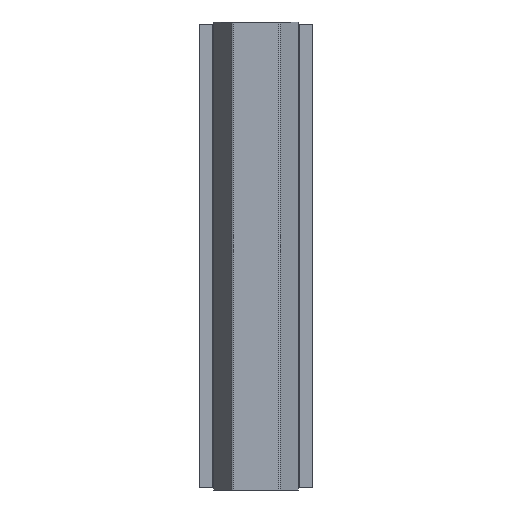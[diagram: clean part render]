
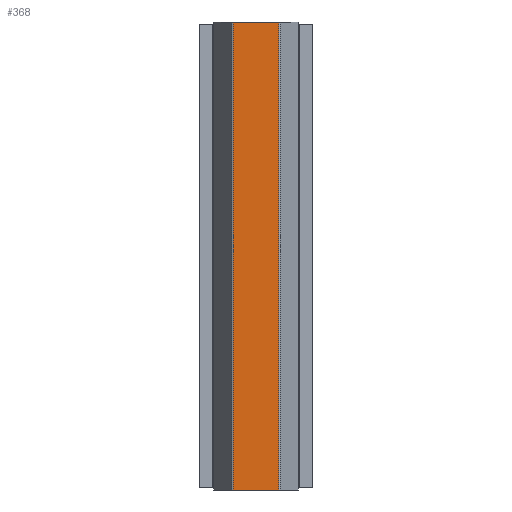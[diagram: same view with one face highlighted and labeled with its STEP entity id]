
A CAD part, front view. The second image highlights one B-rep face of the part: STEP entity #368.
In plain terms, the highlighted planar face has unit normal (0, -1, 0).
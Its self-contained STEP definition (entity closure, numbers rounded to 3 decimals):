
#27 = VERTEX_POINT ( 'NONE', #1229 ) ;
#30 = EDGE_CURVE ( 'NONE', #98, #27, #1272, .T. ) ;
#42 = EDGE_CURVE ( 'NONE', #136, #101, #1263, .T. ) ;
#98 = VERTEX_POINT ( 'NONE', #1411 ) ;
#101 = VERTEX_POINT ( 'NONE', #1400 ) ;
#136 = VERTEX_POINT ( 'NONE', #417 ) ;
#358 = ORIENTED_EDGE ( 'NONE', *, *, #369, .F. ) ;
#359 = EDGE_LOOP ( 'NONE', ( #370, #358, #364, #414 ) ) ;
#360 = EDGE_CURVE ( 'NONE', #98, #136, #781, .T. ) ;
#364 = ORIENTED_EDGE ( 'NONE', *, *, #30, .F. ) ;
#368 = ADVANCED_FACE ( 'NONE', ( #837 ), #831, .F. ) ;
#369 = EDGE_CURVE ( 'NONE', #27, #101, #823, .T. ) ;
#370 = ORIENTED_EDGE ( 'NONE', *, *, #42, .T. ) ;
#414 = ORIENTED_EDGE ( 'NONE', *, *, #360, .T. ) ;
#417 = CARTESIAN_POINT ( 'NONE',  ( 48.86, -1.5, 500. ) ) ;
#757 = CARTESIAN_POINT ( 'NONE',  ( 48.86, -1.5, -500. ) ) ;
#780 = VECTOR ( 'NONE', #840, 1000. ) ;
#781 = LINE ( 'NONE', #757, #780 ) ;
#782 = DIRECTION ( 'NONE',  ( 0., 1., 0. ) ) ;
#785 = CARTESIAN_POINT ( 'NONE',  ( -50., -1.5, -500. ) ) ;
#821 = DIRECTION ( 'NONE',  ( 0., 0., 1. ) ) ;
#822 = VECTOR ( 'NONE', #821, 1000. ) ;
#823 = LINE ( 'NONE', #828, #822 ) ;
#827 = DIRECTION ( 'NONE',  ( 0., 0., 1. ) ) ;
#828 = CARTESIAN_POINT ( 'NONE',  ( -48.86, -1.5, -500. ) ) ;
#831 = PLANE ( 'NONE',  #836 ) ;
#836 = AXIS2_PLACEMENT_3D ( 'NONE', #785, #782, #827 ) ;
#837 = FACE_OUTER_BOUND ( 'NONE', #359, .T. ) ;
#840 = DIRECTION ( 'NONE',  ( 0., 0., 1. ) ) ;
#1229 = CARTESIAN_POINT ( 'NONE',  ( -48.86, -1.5, -500. ) ) ;
#1263 = LINE ( 'NONE', #1321, #1320 ) ;
#1269 = DIRECTION ( 'NONE',  ( -1., 0., 0. ) ) ;
#1270 = VECTOR ( 'NONE', #1269, 1000. ) ;
#1271 = CARTESIAN_POINT ( 'NONE',  ( -50., -1.5, -500. ) ) ;
#1272 = LINE ( 'NONE', #1271, #1270 ) ;
#1319 = DIRECTION ( 'NONE',  ( -1., 0., 0. ) ) ;
#1320 = VECTOR ( 'NONE', #1319, 1000. ) ;
#1321 = CARTESIAN_POINT ( 'NONE',  ( -50., -1.5, 500. ) ) ;
#1400 = CARTESIAN_POINT ( 'NONE',  ( -48.86, -1.5, 500. ) ) ;
#1411 = CARTESIAN_POINT ( 'NONE',  ( 48.86, -1.5, -500. ) ) ;
